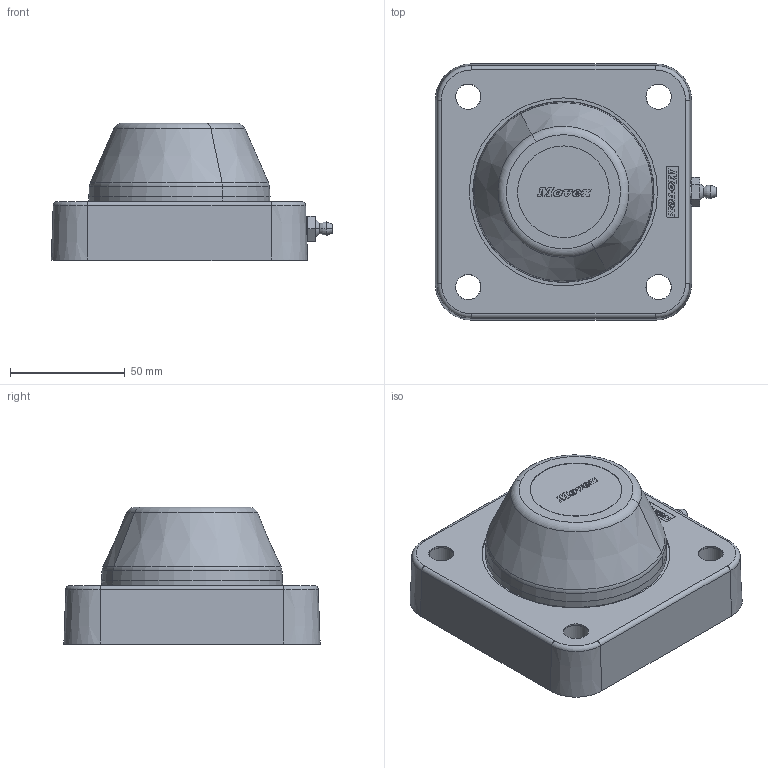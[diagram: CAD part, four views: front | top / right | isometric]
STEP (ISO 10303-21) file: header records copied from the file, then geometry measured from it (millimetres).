
FILE_DESCRIPTION(('CATIA V5 STEP Exchange'),'2;1');
FILE_NAME('X:\CODICI MOVEX\PART. P\P80000\P83002H\P83002H_01.stp','2016-06-20T14:28:18+00:00',('none'),('none'),'Version 5-6 Release 2012','CATIA V5 STEP AP203','none');
FILE_SCHEMA(('CONFIG_CONTROL_DESIGN'));
Products named in the file (2): Product1; S004320A_01
Assembly tree (12 placements, depth 3):
  Product1
    S004320A_01
      #65
      #52257
      #68052  x4
    #68484
    #71460
    #72890
    #72998
    #73906
Bounding box: 122.68 x 111.7 x 60 mm (x, y, z)
Volume: 301117.1 mm3; surface area: 136792.8 mm2
Topology: 24 solids, 24 shells, 2839 faces, 8016 edges, 5241 vertices
Faces by surface type: plane 2394, cylinder 182, cone 100, torus 80, sphere 38, bspline 25, revolution 20
Entity records: 89074 total; most frequent: CARTESIAN_POINT 17784, ORIENTED_EDGE 15752, DIRECTION 12858, EDGE_CURVE 7876, VECTOR 7169, LINE 7169, VERTEX_POINT 5187, AXIS2_PLACEMENT_3D 3116
